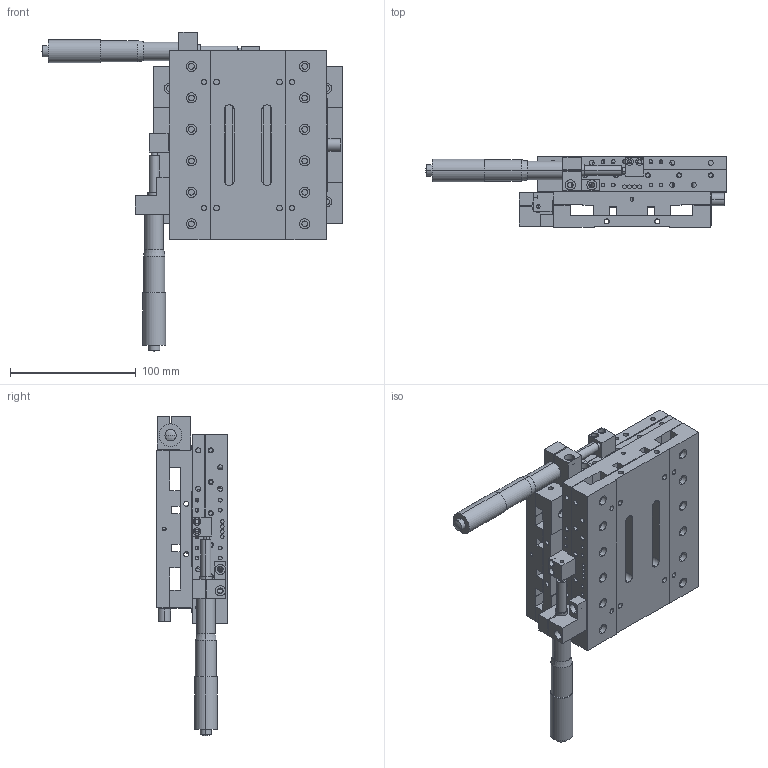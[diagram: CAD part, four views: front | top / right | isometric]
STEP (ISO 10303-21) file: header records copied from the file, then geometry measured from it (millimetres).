
FILE_DESCRIPTION (( 'STEP AP203' ), '1' );
FILE_NAME ('M2-238(0)-R1.STEP', '2014-08-13T21:52:48', ( 'Registered User' ), ( 'Microsoft Corporation' ), 'SwSTEP 2.0', 'SolidWorks 2012', '' );
FILE_SCHEMA (( 'CONFIG_CONTROL_DESIGN' ));
Length unit declared in the file: millimetre
Products named in the file (2): M2-238(0)-R1; M1-238-R1
Assembly tree (2 placements, depth 2):
  M2-238(0)-R1
    M1-238-R1  x2
Bounding box: 239 x 56 x 253.5 mm (x, y, z)
Surface area: 237933 mm2 (no closed solid volume)
Topology: 0 solids, 20 shells, 620 faces, 1908 edges, 1344 vertices
Faces by surface type: cylinder 426, plane 178, cone 8, sphere 8
Entity records: 11394 total; most frequent: DIRECTION 2114, CARTESIAN_POINT 2055, ORIENTED_EDGE 1611, EDGE_CURVE 954, AXIS2_PLACEMENT_3D 853, VERTEX_POINT 672, CIRCLE 538, EDGE_LOOP 464
